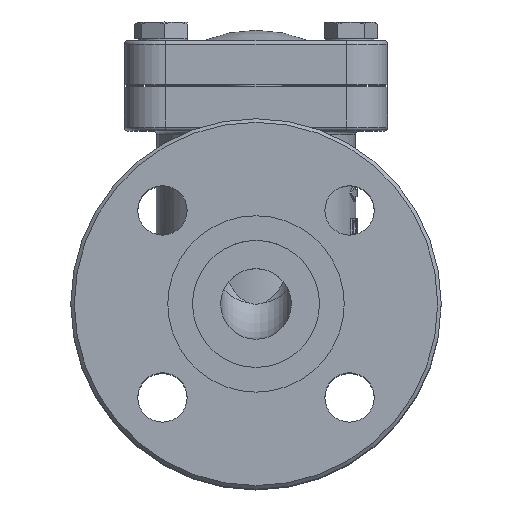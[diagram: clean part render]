
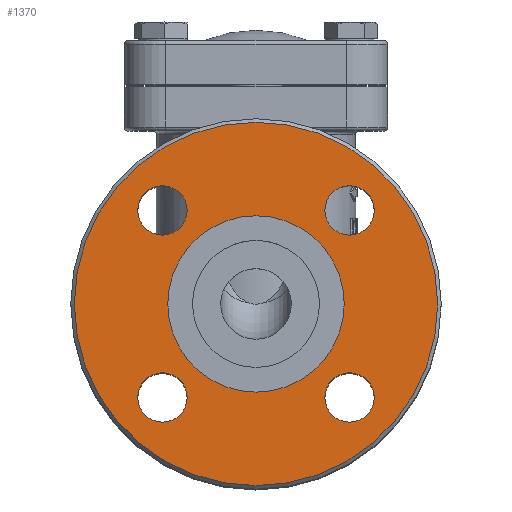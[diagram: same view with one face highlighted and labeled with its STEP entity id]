
A CAD part, top view. The second image highlights one B-rep face of the part: STEP entity #1370.
In plain terms, the highlighted planar face has unit normal (0, 0, 1).
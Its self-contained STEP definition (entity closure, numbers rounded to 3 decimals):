
#1370=ADVANCED_FACE('',(#5531,#5533,#5535,#5537,#5539,#5541),#5543,.F.);
#5531=FACE_BOUND('',#5532,.T.);
#5532=EDGE_LOOP('',(#7805));
#5533=FACE_BOUND('',#5534,.T.);
#5534=EDGE_LOOP('',(#7806));
#5535=FACE_BOUND('',#5536,.T.);
#5536=EDGE_LOOP('',(#7807));
#5537=FACE_BOUND('',#5538,.T.);
#5538=EDGE_LOOP('',(#7808));
#5539=FACE_BOUND('',#5540,.T.);
#5540=EDGE_LOOP('',(#7809));
#5541=FACE_BOUND('',#5542,.T.);
#5542=EDGE_LOOP('',(#7810));
#5543=PLANE('',#5544);
#5544=AXIS2_PLACEMENT_3D('',#5545,#5546,#5547);
#5545=CARTESIAN_POINT('',(0.,0.,70.5));
#5546=DIRECTION('',(0.,0.,-1.));
#5547=DIRECTION('',(0.,1.,0.));
#7805=ORIENTED_EDGE('',*,*,#9024,.F.);
#7806=ORIENTED_EDGE('',*,*,#9025,.T.);
#7807=ORIENTED_EDGE('',*,*,#9019,.F.);
#7808=ORIENTED_EDGE('',*,*,#9020,.F.);
#7809=ORIENTED_EDGE('',*,*,#9021,.F.);
#7810=ORIENTED_EDGE('',*,*,#9022,.F.);
#9019=EDGE_CURVE('',#10056,#10056,#10057,.T.);
#9020=EDGE_CURVE('',#10058,#10058,#10059,.T.);
#9021=EDGE_CURVE('',#10060,#10060,#10061,.T.);
#9022=EDGE_CURVE('',#10062,#10062,#10063,.T.);
#9024=EDGE_CURVE('',#10066,#10066,#10067,.F.);
#9025=EDGE_CURVE('',#10068,#10068,#10069,.T.);
#10056=VERTEX_POINT('',#17378);
#10057=CIRCLE('',#17379,7.);
#10058=VERTEX_POINT('',#17383);
#10059=CIRCLE('',#17384,7.);
#10060=VERTEX_POINT('',#17388);
#10061=CIRCLE('',#17389,7.);
#10062=VERTEX_POINT('',#17393);
#10063=CIRCLE('',#17394,7.);
#10066=VERTEX_POINT('',#17403);
#10067=CIRCLE('',#17404,51.5);
#10068=VERTEX_POINT('',#17408);
#10069=CIRCLE('',#17409,25.);
#17378=CARTESIAN_POINT('',(33.517,-26.517,70.5));
#17379=AXIS2_PLACEMENT_3D('',#17380,#17381,#17382);
#17380=CARTESIAN_POINT('',(26.517,-26.517,70.5));
#17381=DIRECTION('',(0.,0.,1.));
#17382=DIRECTION('',(1.,0.,0.));
#17383=CARTESIAN_POINT('',(-19.517,-26.517,70.5));
#17384=AXIS2_PLACEMENT_3D('',#17385,#17386,#17387);
#17385=CARTESIAN_POINT('',(-26.517,-26.517,70.5));
#17386=DIRECTION('',(0.,0.,1.));
#17387=DIRECTION('',(1.,0.,0.));
#17388=CARTESIAN_POINT('',(-19.517,26.517,70.5));
#17389=AXIS2_PLACEMENT_3D('',#17390,#17391,#17392);
#17390=CARTESIAN_POINT('',(-26.517,26.517,70.5));
#17391=DIRECTION('',(0.,0.,1.));
#17392=DIRECTION('',(1.,0.,0.));
#17393=CARTESIAN_POINT('',(33.517,26.517,70.5));
#17394=AXIS2_PLACEMENT_3D('',#17395,#17396,#17397);
#17395=CARTESIAN_POINT('',(26.517,26.517,70.5));
#17396=DIRECTION('',(0.,0.,1.));
#17397=DIRECTION('',(1.,0.,0.));
#17403=CARTESIAN_POINT('',(-51.5,0.,70.5));
#17404=AXIS2_PLACEMENT_3D('',#17405,#17406,#17407);
#17405=CARTESIAN_POINT('',(0.,0.,70.5));
#17406=DIRECTION('',(0.,0.,1.));
#17407=DIRECTION('',(-1.,0.,0.));
#17408=CARTESIAN_POINT('',(0.,25.,70.5));
#17409=AXIS2_PLACEMENT_3D('',#17410,#17411,#17412);
#17410=CARTESIAN_POINT('',(0.,0.,70.5));
#17411=DIRECTION('',(0.,0.,-1.));
#17412=DIRECTION('',(0.,1.,0.));
